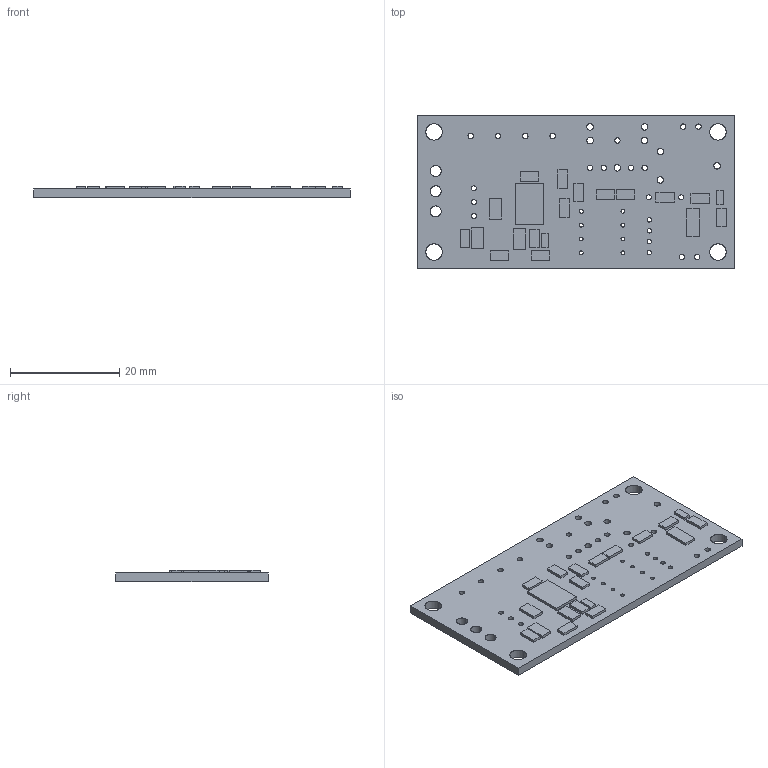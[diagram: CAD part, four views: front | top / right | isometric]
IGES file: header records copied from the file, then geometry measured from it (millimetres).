
Start section: SolidWorks IGES file using analytic representation for surfaces
Global section: file name: C:\Users\AndreBernot\Downloads\K-RACER-L_3D_SW\K-RACER-L_3D_SW\PCB_DGB.IGS; native system: SolidWorks 2015; preprocessor: SolidWorks 2015; author: AndreBernot; date: 170922.151330; units: millimetre
Bounding box: 58 x 28 x 2.1 mm (x, y, z)
Surface area: 3777.6 mm2 (no closed solid volume)
Topology: 0 solids, 0 shells, 196 faces, 2528 edges, 2528 vertices
Faces by surface type: bspline 106, revolution 90
